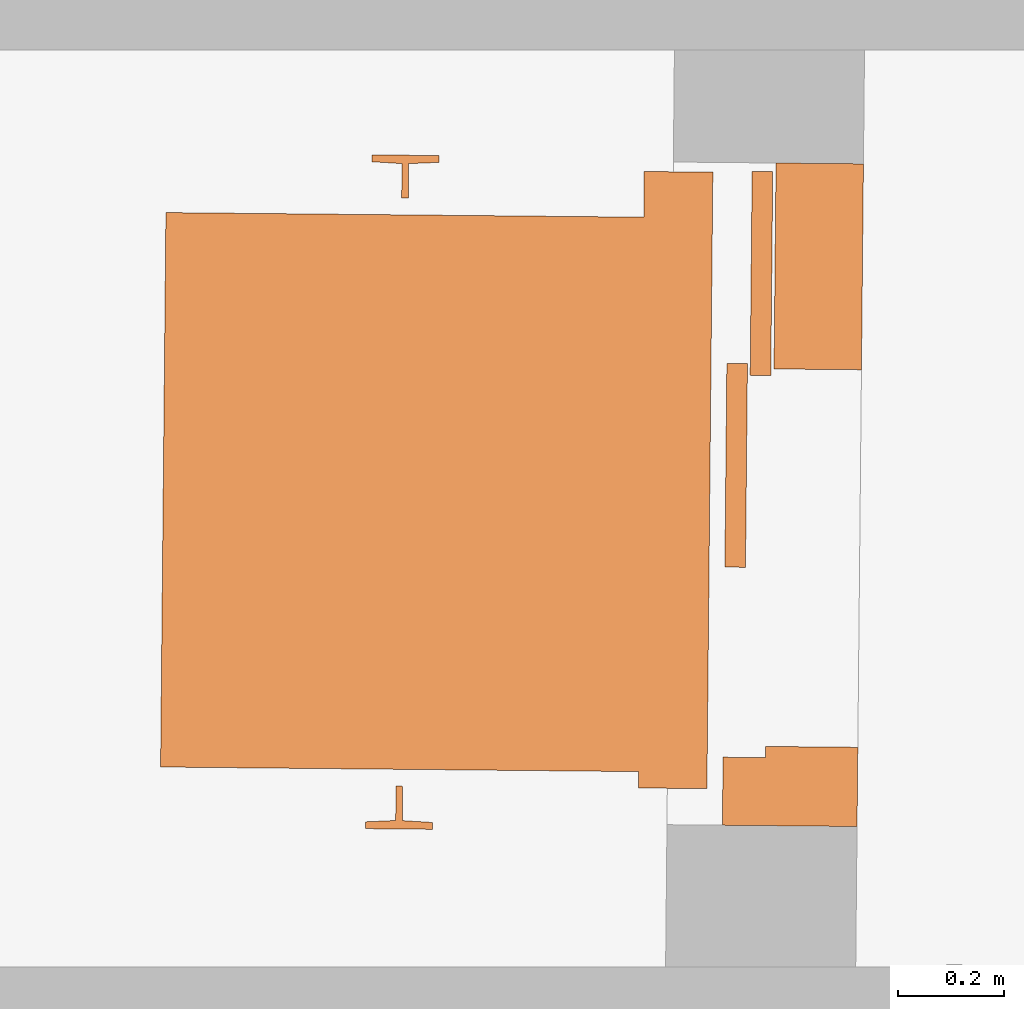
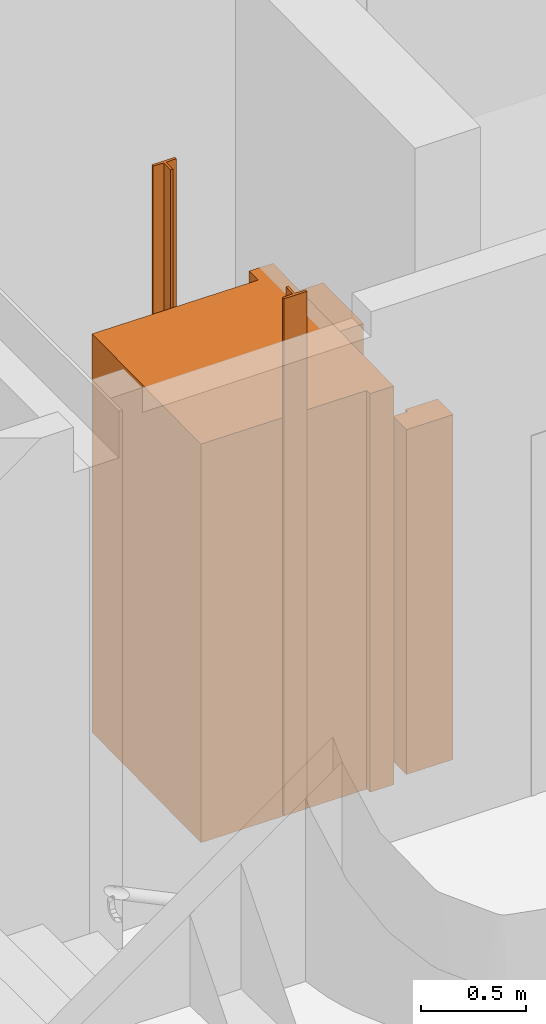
# One storey, part 39 of 39: 1 proxy.
"""IFC4 building model written with IfcOpenShell, lengths in metres."""

from ifc_helpers import new_model, entity, si_unit, converted_unit, derived_unit, direction, frame, origin, place, context, subcontext, project, spatial, polygons, source, transform, mapped, material, type_object, type_shapes, element, save


model = new_model("IFC4")

# Units and contexts
model_context = context("Model", 3, precision=1e-05, world=origin(), true_north=direction((6.12303176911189e-17, 1.0)))
body_context = subcontext(model_context, "Body", "Model", "MODEL_VIEW")
ifc_project = project(units=[si_unit("LENGTHUNIT", "METRE"), si_unit("AREAUNIT", "SQUARE_METRE"), si_unit("VOLUMEUNIT", "CUBIC_METRE"), converted_unit("PLANEANGLEUNIT", "DEGREE", entity("IfcRatioMeasure", 0.0174532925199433), si_unit("PLANEANGLEUNIT", "RADIAN"), dimensions=[0, 0, 0, 0, 0, 0, 0]), si_unit("MASSUNIT", "GRAM", prefix="KILO"), derived_unit("MASSDENSITYUNIT", [(si_unit("MASSUNIT", "GRAM", prefix="KILO"), 1), (si_unit("LENGTHUNIT", "METRE"), -3)]), derived_unit("MOMENTOFINERTIAUNIT", [(si_unit("LENGTHUNIT", "METRE"), 4)]), si_unit("TIMEUNIT", "SECOND"), si_unit("FREQUENCYUNIT", "HERTZ"), si_unit("THERMODYNAMICTEMPERATUREUNIT", "DEGREE_CELSIUS"), derived_unit("THERMALTRANSMITTANCEUNIT", [(si_unit("MASSUNIT", "GRAM", prefix="KILO"), 1), (si_unit("THERMODYNAMICTEMPERATUREUNIT", "KELVIN"), -1), (si_unit("TIMEUNIT", "SECOND"), -3)]), derived_unit("VOLUMETRICFLOWRATEUNIT", [(si_unit("LENGTHUNIT", "METRE"), 3), (si_unit("TIMEUNIT", "SECOND"), -1)]), si_unit("ELECTRICCURRENTUNIT", "AMPERE"), si_unit("ELECTRICVOLTAGEUNIT", "VOLT"), si_unit("POWERUNIT", "WATT"), si_unit("FORCEUNIT", "NEWTON", prefix="KILO"), si_unit("ILLUMINANCEUNIT", "LUX"), si_unit("LUMINOUSFLUXUNIT", "LUMEN"), si_unit("LUMINOUSINTENSITYUNIT", "CANDELA"), derived_unit("USERDEFINED", [(si_unit("MASSUNIT", "GRAM", prefix="KILO"), -1), (si_unit("LENGTHUNIT", "METRE"), -2), (si_unit("TIMEUNIT", "SECOND"), 3), (si_unit("LUMINOUSFLUXUNIT", "LUMEN"), 1)]), derived_unit("LINEARVELOCITYUNIT", [(si_unit("LENGTHUNIT", "METRE"), 1), (si_unit("TIMEUNIT", "SECOND"), -1)]), si_unit("PRESSUREUNIT", "PASCAL"), derived_unit("USERDEFINED", [(si_unit("LENGTHUNIT", "METRE"), -2), (si_unit("MASSUNIT", "GRAM", prefix="KILO"), 1), (si_unit("TIMEUNIT", "SECOND"), -2)]), derived_unit("LINEARFORCEUNIT", [(si_unit("MASSUNIT", "GRAM", prefix="KILO"), 1), (si_unit("LENGTHUNIT", "METRE"), 1), (si_unit("TIMEUNIT", "SECOND"), -2), (si_unit("LENGTHUNIT", "METRE"), -1)]), derived_unit("PLANARFORCEUNIT", [(si_unit("MASSUNIT", "GRAM", prefix="KILO"), 1), (si_unit("LENGTHUNIT", "METRE"), 1), (si_unit("TIMEUNIT", "SECOND"), -2), (si_unit("LENGTHUNIT", "METRE"), -2)])], contexts=[model_context])

# Site, building, storey
site_placement = place(None, origin())
site = spatial("IfcSite", under=ifc_project, at=site_placement, Name="Default", CompositionType="ELEMENT")
building_placement = place(site_placement, origin())
building = spatial("IfcBuilding", under=site, at=building_placement, Name="HOTEL CONSULAIRE BOULOGNE SUR MER", CompositionType="ELEMENT")
storey_placement = place(building_placement, frame((0.0, 0.0, -5.02343668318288)))
storey = spatial("IfcBuildingStorey", under=building, at=storey_placement, Name="SS3", CompositionType="ELEMENT", Elevation=-5.02343668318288)

# Proxy
ifc_material = material(Name="<Unnamed>")
building_element_proxy_type = type_object("IfcBuildingElementProxyType", Name="Ascenseur 4 personnes - Mur:1000 x 880mm", PredefinedType="NOTDEFINED", material=ifc_material)
shared_shape = source(origin(), body_context, "Body", "Tessellation", [
    polygons([(-0.400000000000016, -1.1400000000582, 2.222), (0.649999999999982, -1.14000000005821, 2.222), (0.649999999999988, -0.235000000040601, 2.222), (0.68100000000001, -0.235000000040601, 2.222), (0.681000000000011, -0.105000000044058, 2.222), (-0.486499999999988, -0.105000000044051, 2.222), (-0.486499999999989, -0.235000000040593, 2.222), (-0.40000000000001, -0.235000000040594, 2.222), (-0.400000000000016, -1.1400000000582, 2.2), (-0.40000000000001, -0.235000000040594, 2.2), (-0.486499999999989, -0.235000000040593, 2.2), (-0.486499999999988, -0.105000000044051, 2.2), (0.681000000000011, -0.105000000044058, 2.2), (0.68100000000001, -0.235000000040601, 2.2), (0.649999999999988, -0.235000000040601, 2.2), (0.649999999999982, -1.14000000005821, 2.2)], [[[8, 1, 2, 3, 4, 5, 6, 7]], [[15, 16, 9, 10, 11, 12, 13, 14]], [[2, 1, 9, 16]], [[4, 3, 15, 14]], [[8, 7, 11, 10]], [[3, 2, 16, 15]], [[5, 4, 14, 13]], [[6, 5, 13, 12]], [[7, 6, 12, 11]], [[1, 8, 10, 9]]], closed=True),
    polygons([(-0.400000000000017, -1.1400000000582, 0.0), (0.64999999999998, -1.14000000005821, 0.0), (0.649999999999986, -0.235000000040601, 0.0), (0.68100000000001, -0.235000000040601, 0.0), (0.681000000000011, -0.105000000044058, 0.0), (-0.486499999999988, -0.105000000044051, 0.0), (-0.486499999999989, -0.235000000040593, 0.0), (-0.400000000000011, -0.235000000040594, 0.0), (-0.400000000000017, -1.1400000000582, -0.09), (-0.400000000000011, -0.235000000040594, -0.09), (-0.486499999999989, -0.235000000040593, -0.09), (-0.486499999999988, -0.105000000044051, -0.09), (0.681000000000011, -0.105000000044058, -0.09), (0.68100000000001, -0.235000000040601, -0.09), (0.649999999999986, -0.235000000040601, -0.09), (0.64999999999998, -1.14000000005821, -0.09)], [[[8, 1, 2, 3, 4, 5, 6, 7]], [[15, 16, 9, 10, 11, 12, 13, 14]], [[2, 1, 9, 16]], [[4, 3, 15, 14]], [[8, 7, 11, 10]], [[3, 2, 16, 15]], [[5, 4, 14, 13]], [[6, 5, 13, 12]], [[7, 6, 12, 11]], [[1, 8, 10, 9]]], closed=True),
    polygons([(-0.400000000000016, -1.1400000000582, 2.2), (0.649999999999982, -1.14000000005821, 2.2), (0.649999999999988, -0.235000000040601, 2.2), (0.68100000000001, -0.235000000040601, 2.2), (0.681000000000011, -0.105000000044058, 2.2), (-0.486499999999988, -0.105000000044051, 2.2), (-0.486499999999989, -0.235000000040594, 2.2), (-0.40000000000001, -0.235000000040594, 2.2), (-0.375000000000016, -1.1150000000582, 2.2), (-0.375000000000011, -0.235000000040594, 2.2), (-0.110300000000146, -0.235000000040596, 2.2), (-0.110300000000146, -0.197000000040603, 2.2), (-0.458122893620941, -0.197000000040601, 2.2), (-0.45812289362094, -0.108958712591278, 2.2), (0.621169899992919, -0.108958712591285, 2.2), (0.621169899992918, -0.192683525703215, 2.2), (0.59999999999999, -0.192683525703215, 2.2), (0.599999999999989, -0.235000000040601, 2.2), (0.624999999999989, -0.235000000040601, 2.2), (0.624999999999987, -0.57250164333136, 2.2), (0.610245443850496, -0.572501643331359, 2.2), (0.610245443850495, -0.802501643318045, 2.2), (0.624999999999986, -0.802501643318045, 2.2), (0.624999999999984, -1.11500000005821, 2.2), (-0.400000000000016, -1.1400000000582, 0.0), (-0.40000000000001, -0.235000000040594, 0.0), (-0.486499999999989, -0.235000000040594, 0.0), (-0.486499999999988, -0.105000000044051, 0.0), (-0.173443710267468, -0.105000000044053, 0.0), (-0.173443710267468, -0.10895871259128, 0.0), (-0.45812289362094, -0.108958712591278, 0.0), (-0.458122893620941, -0.197000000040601, 0.0), (-0.110300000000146, -0.197000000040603, 0.0), (-0.110300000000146, -0.235000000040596, 0.0), (-0.375000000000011, -0.235000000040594, 0.0), (-0.375000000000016, -1.1150000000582, 0.0), (0.624999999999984, -1.11500000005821, 0.0), (0.624999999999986, -0.802501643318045, 0.0), (0.610245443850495, -0.802501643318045, 0.0), (0.610245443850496, -0.572501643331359, 0.0), (0.624999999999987, -0.57250164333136, 0.0), (0.624999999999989, -0.235000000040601, 0.0), (0.599999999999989, -0.235000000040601, 0.0), (0.59999999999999, -0.192683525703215, 0.0), (0.621169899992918, -0.192683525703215, 0.0), (0.621169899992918, -0.105000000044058, 0.0), (0.681000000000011, -0.105000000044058, 0.0), (0.68100000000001, -0.235000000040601, 0.0), (0.649999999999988, -0.235000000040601, 0.0), (0.649999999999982, -1.14000000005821, 0.0), (0.621169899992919, -0.105000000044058, 2.0), (-0.173443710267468, -0.105000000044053, 2.0), (-0.173443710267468, -0.10895871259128, 2.0), (0.621169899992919, -0.108958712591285, 2.0), (0.59999999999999, -0.192683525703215, 2.0)], [[[9, 10, 11, 12, 13, 14, 15, 16, 17, 18, 19, 20, 21, 22, 23, 24], [1, 2, 3, 4, 5, 6, 7, 8]], [[50, 25, 26, 27, 28, 29, 30, 31, 32, 33, 34, 35, 36, 37, 38, 39, 40, 41, 42, 43, 44, 45, 46, 47, 48, 49]], [[51, 54, 53, 52]], [[2, 1, 25, 50]], [[4, 3, 49, 48]], [[8, 7, 27, 26]], [[11, 10, 35, 34]], [[54, 15, 14, 31, 30, 53]], [[19, 18, 43, 42]], [[23, 22, 39, 38]], [[3, 2, 50, 49]], [[5, 4, 48, 47]], [[10, 9, 36, 35]], [[12, 11, 34, 33]], [[14, 13, 32, 31]], [[52, 53, 30, 29]], [[5, 47, 46, 51, 52, 29, 28, 6]], [[13, 12, 33, 32]], [[17, 16, 45, 44, 55]], [[21, 20, 41, 40]], [[9, 24, 37, 36]], [[7, 6, 28, 27]], [[1, 8, 26, 25]], [[54, 51, 46, 45, 16, 15]], [[18, 17, 55, 44, 43]], [[20, 19, 42, 41]], [[22, 21, 40, 39]], [[24, 23, 38, 37]]], closed=True),
    polygons([(-0.497026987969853, -0.693801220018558, 0.0), (-0.500026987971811, -0.75100121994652, 0.0), (-0.513026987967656, -0.75100121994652, 0.0), (-0.513026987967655, -0.624001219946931, 0.0), (-0.500026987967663, -0.624001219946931, 0.0), (-0.497113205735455, -0.681305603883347, 0.0), (-0.432026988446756, -0.681305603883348, 0.0), (-0.432026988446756, -0.693801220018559, 0.0), (-0.497026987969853, -0.693801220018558, 3.0), (-0.432026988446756, -0.693801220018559, 3.0), (-0.432026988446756, -0.681305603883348, 3.0), (-0.497113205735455, -0.681305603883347, 3.0), (-0.500026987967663, -0.624001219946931, 3.0), (-0.513026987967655, -0.624001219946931, 3.0), (-0.513026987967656, -0.75100121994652, 3.0), (-0.500026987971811, -0.75100121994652, 3.0)], [[[8, 1, 2, 3, 4, 5, 6, 7]], [[14, 15, 16, 9, 10, 11, 12, 13]], [[10, 9, 1, 8]], [[16, 15, 3, 2]], [[11, 10, 8, 7]], [[12, 11, 7, 6]], [[14, 13, 5, 4]], [[13, 12, 6, 5]], [[15, 14, 4, 3]], [[9, 16, 2, 1]]], closed=True),
    polygons([(0.750026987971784, -0.751001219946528, 3.0), (0.763026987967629, -0.751001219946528, 3.0), (0.76302698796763, -0.624001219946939, 3.0), (0.750026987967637, -0.624001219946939, 3.0), (0.747113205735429, -0.681305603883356, 3.0), (0.682026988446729, -0.681305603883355, 3.0), (0.682026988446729, -0.693801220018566, 3.0), (0.747026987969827, -0.693801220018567, 3.0), (0.750026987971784, -0.751001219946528, 0.0), (0.747026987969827, -0.693801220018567, 0.0), (0.682026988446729, -0.693801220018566, 0.0), (0.682026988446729, -0.681305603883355, 0.0), (0.747113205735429, -0.681305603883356, 0.0), (0.750026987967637, -0.624001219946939, 0.0), (0.76302698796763, -0.624001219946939, 0.0), (0.763026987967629, -0.751001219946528, 0.0)], [[[7, 8, 1, 2, 3, 4, 5, 6]], [[15, 16, 9, 10, 11, 12, 13, 14]], [[2, 1, 9, 16]], [[8, 7, 11, 10]], [[3, 2, 16, 15]], [[4, 3, 15, 14]], [[6, 5, 13, 12]], [[5, 4, 14, 13]], [[7, 6, 12, 11]], [[1, 8, 10, 9]]], closed=True),
    polygons([(-0.48862205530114, 0.00838938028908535, 0.0), (-0.10262205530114, 0.00838938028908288, 0.0), (-0.10262205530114, -0.0306106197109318, 0.0), (-0.48862205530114, -0.0306106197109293, 0.0), (-0.48862205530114, 0.00838938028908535, 2.0), (-0.48862205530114, -0.0306106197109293, 2.0), (-0.10262205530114, -0.0306106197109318, 2.0), (-0.10262205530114, 0.00838938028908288, 2.0)], [[[2, 3, 4, 1]], [[5, 6, 7, 8]], [[6, 5, 1, 4]], [[7, 6, 4, 3]], [[8, 7, 3, 2]], [[5, 8, 2, 1]]], closed=True),
    polygons([(-0.114830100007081, -0.144000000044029, 2.0), (0.271169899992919, -0.144000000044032, 2.0), (0.271169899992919, -0.108958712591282, 2.0), (-0.114830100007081, -0.108958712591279, 2.0), (-0.114830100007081, -0.144000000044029, 0.0), (-0.114830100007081, -0.108958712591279, 0.0), (0.271169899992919, -0.108958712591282, 0.0), (0.271169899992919, -0.144000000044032, 0.0)], [[[4, 1, 2, 3]], [[7, 8, 5, 6]], [[2, 1, 5, 8]], [[3, 2, 8, 7]], [[4, 3, 7, 6]], [[1, 4, 6, 5]]], closed=True),
    polygons([(-0.448622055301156, -0.190989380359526, 0.0), (-0.448622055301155, -0.149389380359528, 0.0), (-0.0626220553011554, -0.14938938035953, 0.0), (-0.0626220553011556, -0.190989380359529, 0.0), (-0.448622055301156, -0.190989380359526, 2.0), (-0.0626220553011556, -0.190989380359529, 2.0), (-0.0626220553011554, -0.14938938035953, 2.0), (-0.448622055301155, -0.149389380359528, 2.0)], [[[3, 4, 1, 2]], [[8, 5, 6, 7]], [[6, 5, 1, 4]], [[7, 6, 4, 3]], [[8, 7, 3, 2]], [[5, 8, 2, 1]]], closed=True),
    polygons([(-0.124830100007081, -0.0750000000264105, 0.0), (-0.124830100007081, -0.0360000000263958, 0.0), (0.261169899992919, -0.0360000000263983, 0.0), (0.261169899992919, -0.075000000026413, 0.0), (-0.124830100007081, -0.0750000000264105, 2.0), (0.261169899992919, -0.075000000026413, 2.0), (0.261169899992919, -0.0360000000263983, 2.0), (-0.124830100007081, -0.0360000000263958, 2.0)], [[[3, 4, 1, 2]], [[8, 5, 6, 7]], [[6, 5, 1, 4]], [[7, 6, 4, 3]], [[8, 7, 3, 2]], [[5, 8, 2, 1]]], closed=True),
    polygons([(0.599999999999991, 0.00499999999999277, 0.0), (0.599999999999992, 0.180000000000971, 0.0), (0.750000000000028, 0.18000000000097, 0.0), (0.750000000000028, -0.075000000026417, 0.0), (0.621169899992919, -0.0750000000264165, 0.0), (0.621169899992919, 0.0049999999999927, 0.0), (0.599999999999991, 0.00499999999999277, 2.0), (0.621169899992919, 0.0049999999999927, 2.0), (0.621169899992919, -0.0750000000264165, 2.0), (0.750000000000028, -0.075000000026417, 2.0), (0.750000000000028, 0.18000000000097, 2.0), (0.599999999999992, 0.180000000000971, 2.0)], [[[6, 1, 2, 3, 4, 5]], [[10, 11, 12, 7, 8, 9]], [[8, 7, 1, 6]], [[10, 9, 5, 4]], [[9, 8, 6, 5]], [[7, 12, 2, 1]], [[11, 10, 4, 3]], [[12, 11, 3, 2]]], closed=True),
    polygons([(-0.114979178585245, 0.179999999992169, 2.0), (-0.505006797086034, 0.180000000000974, 2.0), (-0.505006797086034, 0.0144785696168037, 2.0), (-0.114979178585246, 0.0144785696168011, 2.0), (-0.114979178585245, 0.179999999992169, 0.0), (-0.114979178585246, 0.0144785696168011, 0.0), (-0.505006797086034, 0.0144785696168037, 0.0), (-0.505006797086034, 0.180000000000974, 0.0)], [[[4, 1, 2, 3]], [[7, 8, 5, 6]], [[2, 1, 5, 8]], [[3, 2, 8, 7]], [[4, 3, 7, 6]], [[1, 4, 6, 5]]], closed=True),
])
type_shapes(building_element_proxy_type, [shared_shape])
proxy_placement = place(storey_placement, frame((9.27774164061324, -10.9530269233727, -0.649999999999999), z_axis=(0.0, 0.0, 1.0), x_axis=(-0.00962277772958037, -0.999953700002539, 0.0)))
element("IfcBuildingElementProxy", 1, at=proxy_placement, inside=storey, type_object=building_element_proxy_type, Name="Ascenseur 4 personnes - Mur:1000 x 880mm", ObjectType="Ascenseur 4 personnes - Mur:1000 x 880mm", PredefinedType="NOTDEFINED", context=body_context, shape_type="MappedRepresentation", body=[
    mapped(shared_shape, transform((0.0, 0.0, 0.0), scale=1.0)),
])

save(model, "model.ifc")
